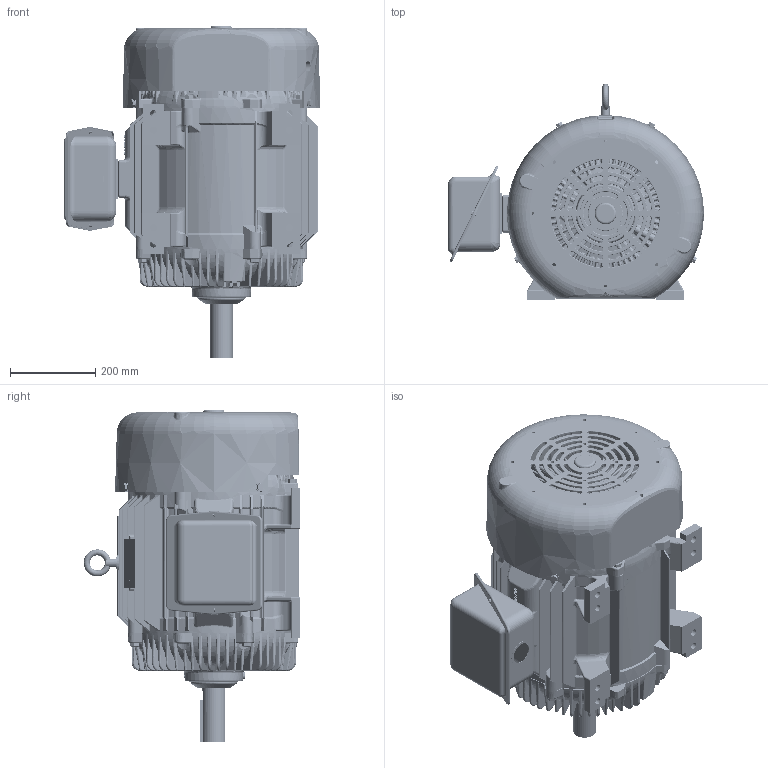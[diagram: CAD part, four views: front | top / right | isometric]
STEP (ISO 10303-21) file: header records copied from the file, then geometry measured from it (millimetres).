
FILE_DESCRIPTION (( 'STEP AP203' ), '1' );
FILE_NAME ('SS28289-1300_F2_RevW.STEP', '2018-11-29T13:03:41', ( '' ), ( '' ), 'SwSTEP 2.0', 'SolidWorks 2015', '' );
FILE_SCHEMA (( 'CONFIG_CONTROL_DESIGN' ));
Length unit declared in the file: inch
Products named in the file (1): SS28289-1300_F2_RevW
Bounding box: 599.55 x 506.84 x 777.16 mm (x, y, z)
Volume: 17045499.6 mm3; surface area: 4209522.4 mm2
Topology: 46 solids, 46 shells, 7887 faces, 19561 edges, 11643 vertices
Faces by surface type: bspline 2602, cylinder 1694, plane 1318, torus 1207, cone 757, sphere 309
Entity records: 388102 total; most frequent: CARTESIAN_POINT 222744, ORIENTED_EDGE 38640, DIRECTION 30052, EDGE_CURVE 19320, AXIS2_PLACEMENT_3D 13063, VERTEX_POINT 11629, EDGE_LOOP 8211, ADVANCED_FACE 7887
